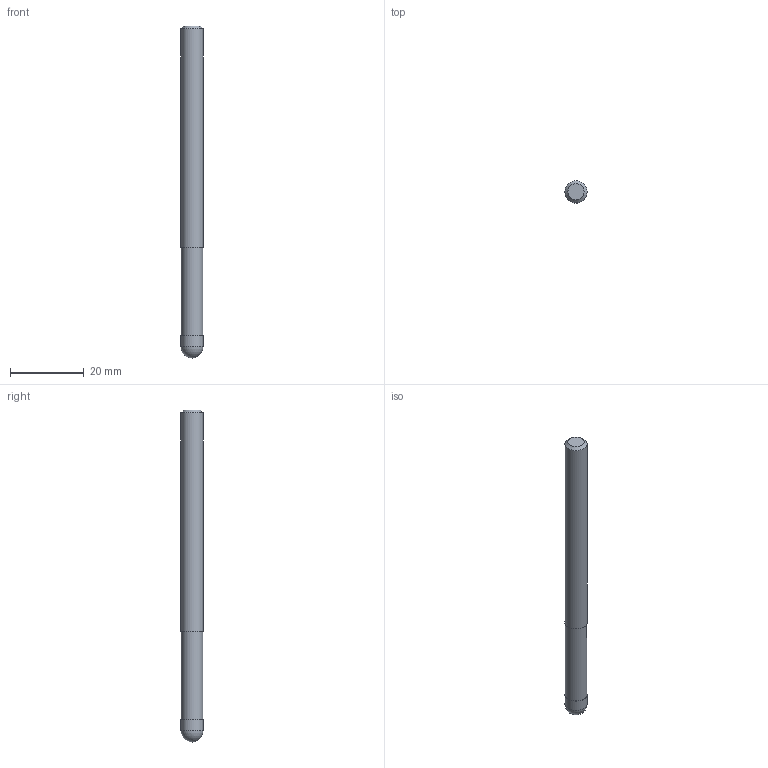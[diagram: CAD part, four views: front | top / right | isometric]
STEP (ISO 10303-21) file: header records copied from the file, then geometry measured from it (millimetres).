
FILE_DESCRIPTION((''),'2;1');
FILE_NAME('C:\Users\nsx150\AppData\Local\Temp\Mastercam 2021\EUJSUNXURU\TEMP.step','2021-04-22T10:26:41',(''),(''),'STEP Write','Mastercam 2021 ... CNC Software, Inc.','');
FILE_SCHEMA(('AUTOMOTIVE_DESIGN'));
Length unit declared in the file: millimetre
Products named in the file (1): None
Bounding box: 6 x 6 x 90 mm (x, y, z)
Volume: 2466.4 mm3; surface area: 1756.5 mm2
Topology: 2 solids, 2 shells, 9 faces, 13 edges, 8 vertices
Faces by surface type: plane 4, cylinder 3, sphere 1, cone 1
Full cylindrical faces by diameter (mm): 5.8 x1, 6 x2
Entity records: 211 total; most frequent: DIRECTION 36, CARTESIAN_POINT 25, AXIS2_PLACEMENT_3D 18, ORIENTED_EDGE 14, EDGE_LOOP 14, STYLED_ITEM 12, ADVANCED_FACE 9, FACE_BOUND 8
